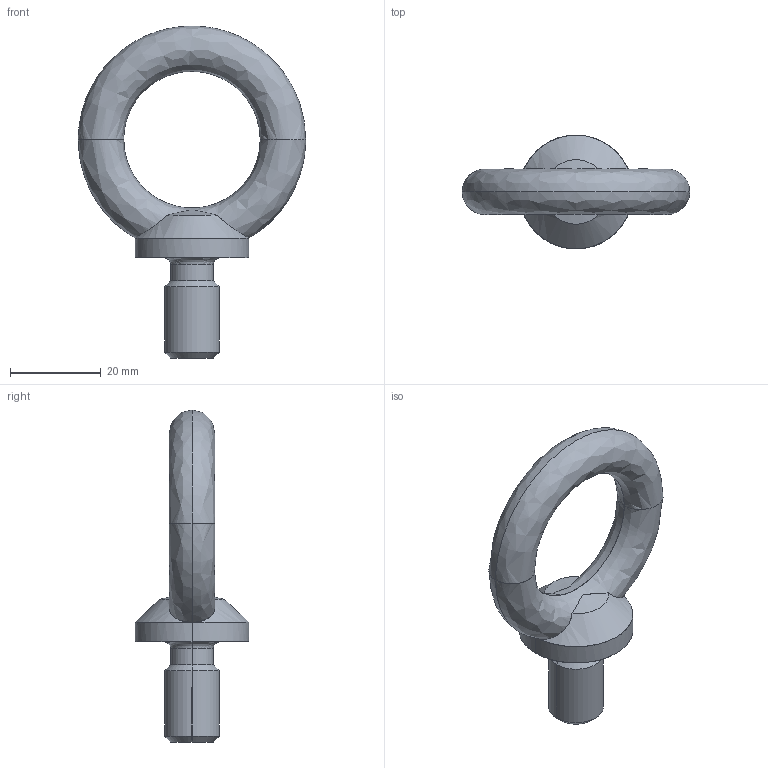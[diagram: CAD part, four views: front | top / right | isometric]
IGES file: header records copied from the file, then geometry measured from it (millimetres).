
Global section: file name: E:\UnigraphicsGraphicData\MISUMI_PRESS-PARTS\IGES\3d_chi12_03528_r00.igs; native system: NX V5.0; preprocessor: UGS NX IGES V5.0; author: MISUMI; date: 20110105.160218; units: millimetre
Bounding box: 50 x 25 x 73 mm (x, y, z)
Surface area: 5514.6 mm2 (no closed solid volume)
Topology: 0 solids, 0 shells, 22 faces, 136 edges, 136 vertices
Faces by surface type: bspline 22
